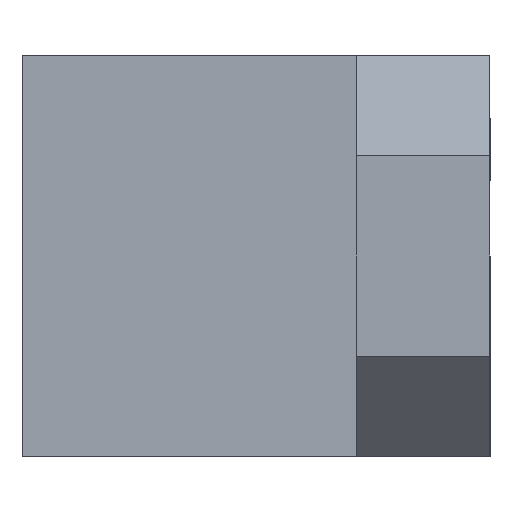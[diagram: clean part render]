
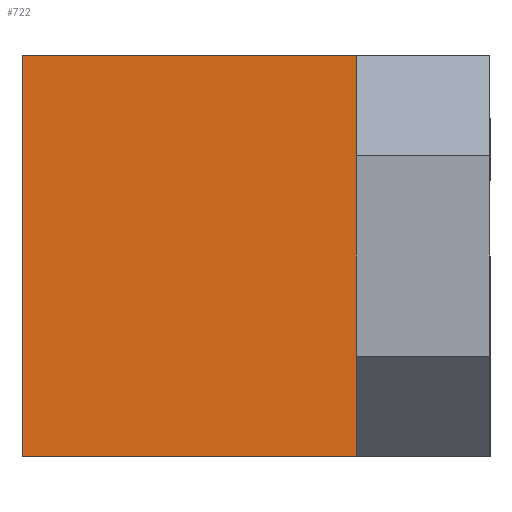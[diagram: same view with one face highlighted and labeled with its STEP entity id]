
A CAD part, left-side view. The second image highlights one B-rep face of the part: STEP entity #722.
In plain terms, the highlighted planar face has unit normal (-1, 0, 0).
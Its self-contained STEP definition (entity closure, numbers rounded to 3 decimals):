
#19 = CARTESIAN_POINT ( 'NONE',  ( -14., -10., 0. ) ) ;
#33 = ORIENTED_EDGE ( 'NONE', *, *, #176, .T. ) ;
#81 = VERTEX_POINT ( 'NONE', #514 ) ;
#94 = CARTESIAN_POINT ( 'NONE',  ( -14., -7., -12. ) ) ;
#96 = VECTOR ( 'NONE', #519, 1000. ) ;
#107 = VECTOR ( 'NONE', #830, 1000. ) ;
#153 = EDGE_CURVE ( 'NONE', #228, #273, #305, .T. ) ;
#176 = EDGE_CURVE ( 'NONE', #273, #81, #623, .T. ) ;
#189 = DIRECTION ( 'NONE',  ( 0., -1., 0. ) ) ;
#215 = LINE ( 'NONE', #356, #96 ) ;
#228 = VERTEX_POINT ( 'NONE', #620 ) ;
#242 = EDGE_LOOP ( 'NONE', ( #33, #580, #563, #763 ) ) ;
#248 = DIRECTION ( 'NONE',  ( 0., -1., 0. ) ) ;
#273 = VERTEX_POINT ( 'NONE', #708 ) ;
#295 = PLANE ( 'NONE',  #471 ) ;
#300 = VERTEX_POINT ( 'NONE', #406 ) ;
#305 = LINE ( 'NONE', #94, #429 ) ;
#355 = EDGE_CURVE ( 'NONE', #228, #300, #215, .T. ) ;
#356 = CARTESIAN_POINT ( 'NONE',  ( -14., 0., -6. ) ) ;
#406 = CARTESIAN_POINT ( 'NONE',  ( -14., 0., 0. ) ) ;
#420 = LINE ( 'NONE', #656, #492 ) ;
#429 = VECTOR ( 'NONE', #248, 1000. ) ;
#471 = AXIS2_PLACEMENT_3D ( 'NONE', #19, #820, #758 ) ;
#492 = VECTOR ( 'NONE', #189, 1000. ) ;
#514 = CARTESIAN_POINT ( 'NONE',  ( -14., -10., 0. ) ) ;
#519 = DIRECTION ( 'NONE',  ( 0., 0., 1. ) ) ;
#563 = ORIENTED_EDGE ( 'NONE', *, *, #355, .F. ) ;
#580 = ORIENTED_EDGE ( 'NONE', *, *, #741, .F. ) ;
#589 = FACE_OUTER_BOUND ( 'NONE', #242, .T. ) ;
#620 = CARTESIAN_POINT ( 'NONE',  ( -14., 0., -12. ) ) ;
#623 = LINE ( 'NONE', #852, #107 ) ;
#656 = CARTESIAN_POINT ( 'NONE',  ( -14., -7., 0. ) ) ;
#708 = CARTESIAN_POINT ( 'NONE',  ( -14., -10., -12. ) ) ;
#722 = ADVANCED_FACE ( 'NONE', ( #589 ), #295, .F. ) ;
#741 = EDGE_CURVE ( 'NONE', #300, #81, #420, .T. ) ;
#758 = DIRECTION ( 'NONE',  ( 0., 0., -1. ) ) ;
#763 = ORIENTED_EDGE ( 'NONE', *, *, #153, .T. ) ;
#820 = DIRECTION ( 'NONE',  ( 1., 0., 0. ) ) ;
#830 = DIRECTION ( 'NONE',  ( 0., 0., 1. ) ) ;
#852 = CARTESIAN_POINT ( 'NONE',  ( -14., -10., -6. ) ) ;
